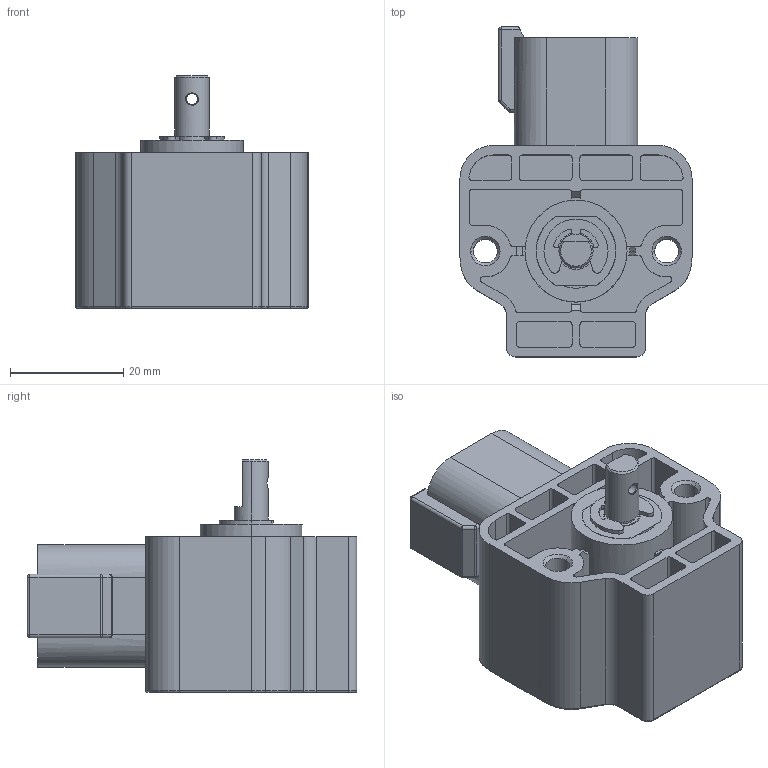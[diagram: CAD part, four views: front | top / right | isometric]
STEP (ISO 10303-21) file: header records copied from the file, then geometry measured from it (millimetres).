
FILE_DESCRIPTION (( 'STEP AP203' ), '1' );
FILE_NAME ('GRA 6P DEUTSCH.STEP', '2016-02-02T11:23:24', ( '' ), ( '' ), 'SwSTEP 2.0', 'SolidWorks 2015', '' );
FILE_SCHEMA (( 'CONFIG_CONTROL_DESIGN' ));
Length unit declared in the file: millimetre
Products named in the file (1): GRA 6P DEUTSCH
Bounding box: 41 x 58.2 x 41.07 mm (x, y, z)
Volume: 30515.7 mm3; surface area: 18818 mm2
Topology: 11 solids, 11 shells, 490 faces, 1263 edges, 820 vertices
Faces by surface type: plane 223, cylinder 178, bspline 51, cone 18, torus 14, sphere 6
Entity records: 18614 total; most frequent: CARTESIAN_POINT 6756, ORIENTED_EDGE 2518, DIRECTION 2366, EDGE_CURVE 1259, AXIS2_PLACEMENT_3D 827, VERTEX_POINT 820, LINE 712, VECTOR 712
